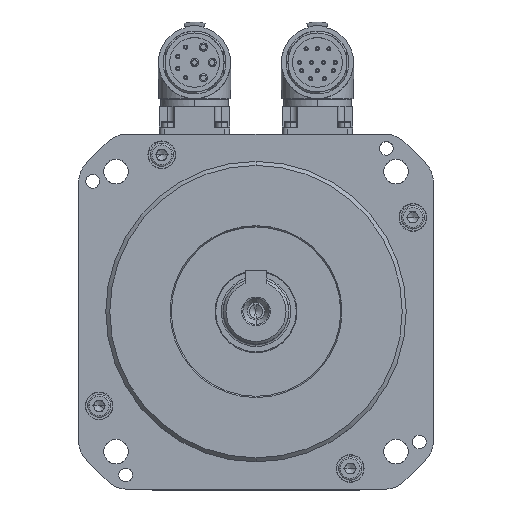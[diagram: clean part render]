
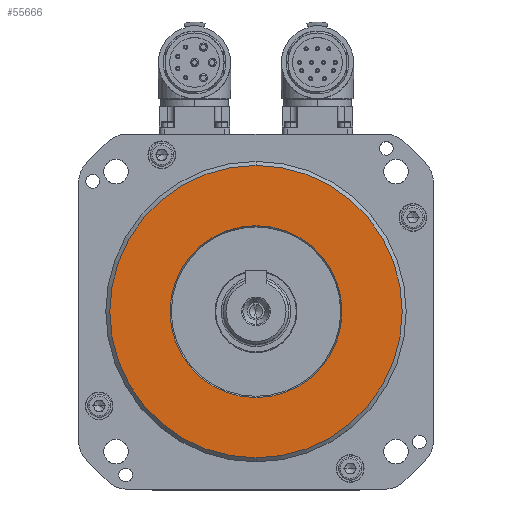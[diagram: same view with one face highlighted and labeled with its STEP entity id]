
A CAD part, top view. The second image highlights one B-rep face of the part: STEP entity #55666.
In plain terms, the highlighted planar face has unit normal (0, 0, 1).
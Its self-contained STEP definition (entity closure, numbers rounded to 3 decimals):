
#352 = FACE_OUTER_BOUND ( 'NONE', #692, .T. ) ;
#692 = EDGE_LOOP ( 'NONE', ( #21529, #25158 ) ) ;
#2954 = CARTESIAN_POINT ( 'NONE',  ( 0., 0., 66.8 ) ) ;
#3925 = CIRCLE ( 'NONE', #54994, 31.481 ) ;
#3963 = CARTESIAN_POINT ( 'NONE',  ( 0., 0., 66.8 ) ) ;
#6042 = VERTEX_POINT ( 'NONE', #16274 ) ;
#10113 = EDGE_CURVE ( 'NONE', #35930, #50032, #25154, .T. ) ;
#12733 = DIRECTION ( 'NONE',  ( 0., 0., 1. ) ) ;
#14527 = DIRECTION ( 'NONE',  ( 0., 0., 1. ) ) ;
#15685 = VERTEX_POINT ( 'NONE', #26330 ) ;
#16274 = CARTESIAN_POINT ( 'NONE',  ( 0., 31.481, 66.8 ) ) ;
#17565 = AXIS2_PLACEMENT_3D ( 'NONE', #3963, #14527, #58033 ) ;
#19702 = DIRECTION ( 'NONE',  ( 0., 0., 1. ) ) ;
#19720 = ORIENTED_EDGE ( 'NONE', *, *, #47403, .F. ) ;
#21291 = EDGE_CURVE ( 'NONE', #50032, #35930, #31420, .T. ) ;
#21529 = ORIENTED_EDGE ( 'NONE', *, *, #10113, .T. ) ;
#22468 = DIRECTION ( 'NONE',  ( 0., 0., 1. ) ) ;
#25154 = CIRCLE ( 'NONE', #48620, 53.54 ) ;
#25158 = ORIENTED_EDGE ( 'NONE', *, *, #21291, .T. ) ;
#26330 = CARTESIAN_POINT ( 'NONE',  ( 0., -31.481, 66.8 ) ) ;
#26733 = FACE_BOUND ( 'NONE', #31996, .T. ) ;
#29366 = DIRECTION ( 'NONE',  ( 0., -1., 0. ) ) ;
#31420 = CIRCLE ( 'NONE', #52726, 53.54 ) ;
#31829 = DIRECTION ( 'NONE',  ( 0., -1., 0. ) ) ;
#31996 = EDGE_LOOP ( 'NONE', ( #44260, #19720 ) ) ;
#35930 = VERTEX_POINT ( 'NONE', #53603 ) ;
#37149 = CIRCLE ( 'NONE', #45694, 31.481 ) ;
#39628 = DIRECTION ( 'NONE',  ( 0., -1., 0. ) ) ;
#44260 = ORIENTED_EDGE ( 'NONE', *, *, #61426, .F. ) ;
#45694 = AXIS2_PLACEMENT_3D ( 'NONE', #53952, #49510, #39628 ) ;
#45802 = CARTESIAN_POINT ( 'NONE',  ( 0., 0., 66.8 ) ) ;
#47403 = EDGE_CURVE ( 'NONE', #15685, #6042, #3925, .T. ) ;
#48620 = AXIS2_PLACEMENT_3D ( 'NONE', #57990, #19702, #29366 ) ;
#49510 = DIRECTION ( 'NONE',  ( 0., 0., 1. ) ) ;
#50032 = VERTEX_POINT ( 'NONE', #59036 ) ;
#52726 = AXIS2_PLACEMENT_3D ( 'NONE', #45802, #22468, #56106 ) ;
#53603 = CARTESIAN_POINT ( 'NONE',  ( 0., 53.54, 66.8 ) ) ;
#53952 = CARTESIAN_POINT ( 'NONE',  ( 0., 0., 66.8 ) ) ;
#54994 = AXIS2_PLACEMENT_3D ( 'NONE', #2954, #12733, #31829 ) ;
#55666 = ADVANCED_FACE ( 'NONE', ( #26733, #352 ), #61686, .T. ) ;
#56106 = DIRECTION ( 'NONE',  ( 0., -1., 0. ) ) ;
#57990 = CARTESIAN_POINT ( 'NONE',  ( 0., 0., 66.8 ) ) ;
#58033 = DIRECTION ( 'NONE',  ( 0., -1., 0. ) ) ;
#59036 = CARTESIAN_POINT ( 'NONE',  ( 0., -53.54, 66.8 ) ) ;
#61426 = EDGE_CURVE ( 'NONE', #6042, #15685, #37149, .T. ) ;
#61686 = PLANE ( 'NONE',  #17565 ) ;
